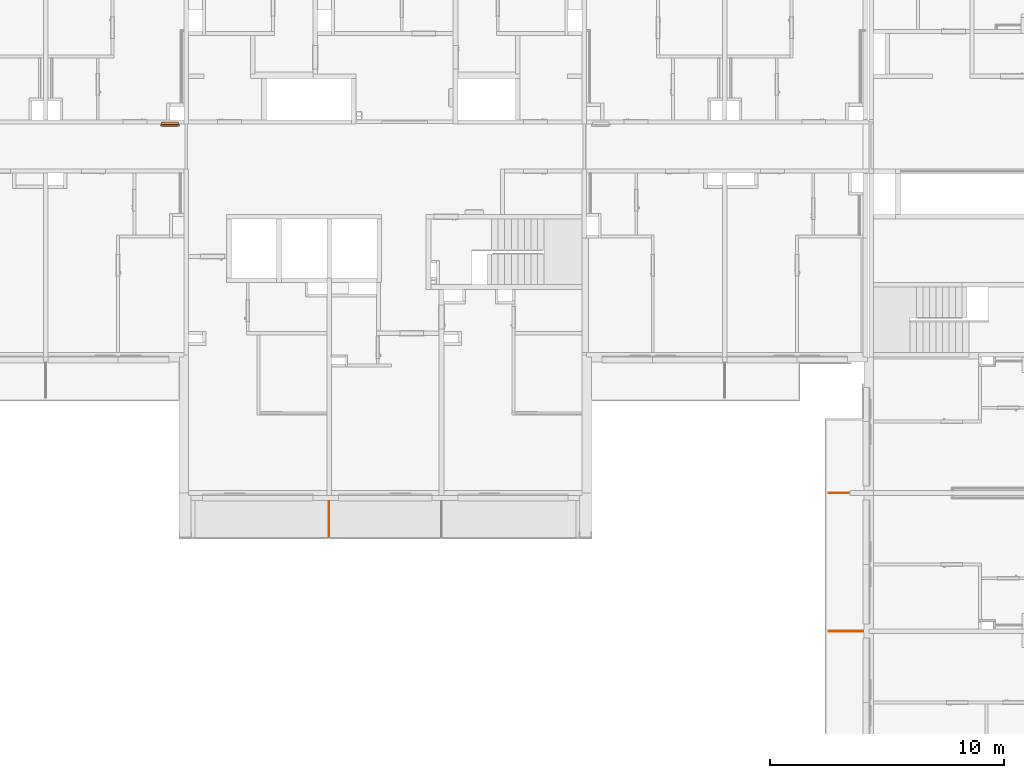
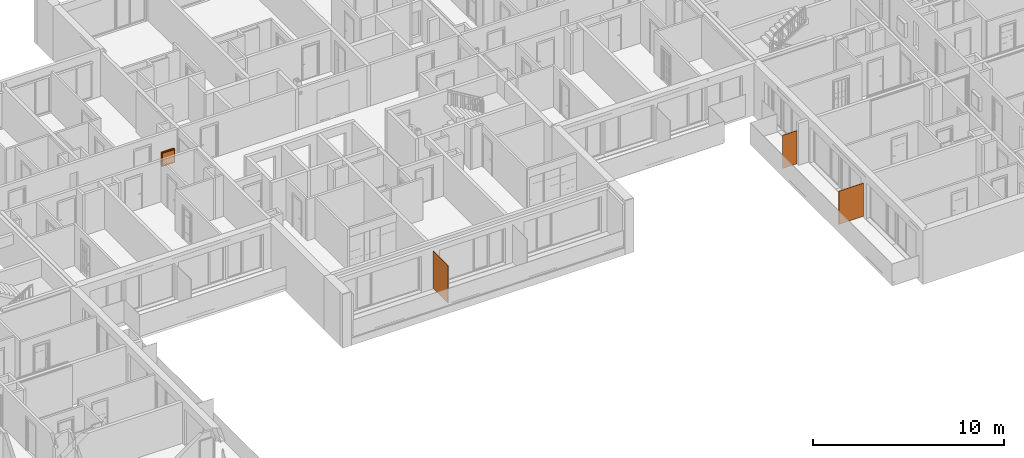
# One storey, part 26 of 67: 4 proxies.
"""IFC2X3 building model written with IfcOpenShell, lengths in millimetres."""

from ifc_helpers import new_model, entity, si_unit, converted_unit, derived_unit, money_unit, direction, frame, origin_with_axes, place, context, subcontext, project, spatial, polyline, outline, extrude, faceted_brep, source, transform, mapped, material, type_object, element, save


model = new_model("IFC2X3")

# Units and contexts
model_context = context("Model", 3, precision=0.01, world=origin_with_axes(), true_north=direction((0.34421633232, 0.938890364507)))
body_context = subcontext(model_context, "Body", "Model", "MODEL_VIEW")
ifc_project = project(units=[si_unit("LENGTHUNIT", "METRE", prefix="MILLI"), si_unit("AREAUNIT", "SQUARE_METRE"), si_unit("VOLUMEUNIT", "CUBIC_METRE"), converted_unit("PLANEANGLEUNIT", "DEGREE", entity("IfcPlaneAngleMeasure", 0.0174532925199), si_unit("PLANEANGLEUNIT", "RADIAN"), dimensions=[0, 0, 0, 0, 0, 0, 0]), si_unit("SOLIDANGLEUNIT", "STERADIAN"), money_unit("USD"), converted_unit("TIMEUNIT", "Year", entity("IfcTimeMeasure", 31556926.0), si_unit("TIMEUNIT", "SECOND"), dimensions=[0, 0, 1, 0, 0, 0, 0]), si_unit("MASSUNIT", "GRAM", prefix="KILO"), si_unit("THERMODYNAMICTEMPERATUREUNIT", "DEGREE_CELSIUS"), si_unit("LUMINOUSINTENSITYUNIT", "LUMEN"), si_unit("ENERGYUNIT", "JOULE", prefix="MEGA"), derived_unit("THERMALCONDUCTANCEUNIT", [(si_unit("POWERUNIT", "WATT"), 1), (si_unit("LENGTHUNIT", "METRE"), -1), (si_unit("THERMODYNAMICTEMPERATUREUNIT", "KELVIN"), -1)]), derived_unit("SPECIFICHEATCAPACITYUNIT", [(si_unit("ENERGYUNIT", "JOULE"), 1), (si_unit("MASSUNIT", "GRAM", prefix="KILO"), -1), (si_unit("THERMODYNAMICTEMPERATUREUNIT", "KELVIN"), -1)]), derived_unit("MASSDENSITYUNIT", [(si_unit("MASSUNIT", "GRAM", prefix="KILO"), 1), (si_unit("VOLUMEUNIT", "CUBIC_METRE"), -1)])], contexts=[model_context])

# Site, building, storey
site_placement = place(None, origin_with_axes())
site = spatial("IfcSite", under=ifc_project, at=site_placement, Name="USTRONIE MORSKIE", CompositionType="ELEMENT")
building_placement = place(site_placement, origin_with_axes())
building = spatial("IfcBuilding", under=site, at=building_placement, Name="Budynek", CompositionType="ELEMENT")
storey_placement = place(building_placement, frame((0.0, 0.0, 4000.0), z_axis=(0.0, 0.0, 1.0), x_axis=(1.0, 0.0, 0.0)))
storey = spatial("IfcBuildingStorey", under=building, at=storey_placement, Name="PIĘTRO 1", CompositionType="ELEMENT", Elevation=4000.0)

# Proxies
ifc_material = material(Name="Woda")
building_element_proxy_type_1 = type_object("IfcBuildingElementProxyType", Name="Woda 30", PredefinedType="NOTDEFINED")
proxy_1_placement = place(storey_placement, frame((408237.884527, 715101.199004, 20.0), z_axis=(0.0, 0.0, 1.0), x_axis=(-0.99999999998, -6.33272500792e-06, 0.0)))
element("IfcBuildingElementProxy", 1, at=proxy_1_placement, inside=storey, type_object=building_element_proxy_type_1, material=ifc_material, Name="Œciana-007", context=body_context, shape_type="SweptSolid", body=[
    extrude(outline(polyline([(0.0, -14.9999999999), (1490.00000003, -14.9999999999), (1490.00000003, 15.0000000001), (0.0, 15.0000000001), (0.0, -14.9999999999)])), origin_with_axes(), (0.0, 0.0, 1.0), 2120.0),
])
proxy_2_placement = place(storey_placement, frame((407617.884527, 721001.199036, 20.0), z_axis=(0.0, 0.0, 1.0), x_axis=(-0.99999999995, -1.0002154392e-05, 0.0)))
element("IfcBuildingElementProxy", 2, at=proxy_2_placement, inside=storey, type_object=building_element_proxy_type_1, material=ifc_material, Name="Œciana-007", context=body_context, shape_type="SweptSolid", body=[
    extrude(outline(polyline([(0.0, -15.0), (870.000000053, -15.0), (870.000000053, 15.0), (0.0, 15.0), (0.0, -15.0)])), origin_with_axes(), (0.0, 0.0, 1.0), 2120.0),
])
proxy_3_placement = place(storey_placement, frame((385417.920919, 720651.199036, 20.0), z_axis=(0.0, 0.0, 1.0), x_axis=(0.0, -1.0, 0.0)))
element("IfcBuildingElementProxy", 3, at=proxy_3_placement, inside=storey, type_object=building_element_proxy_type_1, material=ifc_material, Name="Œciana-007", context=body_context, shape_type="SweptSolid", body=[
    extrude(outline(polyline([(0.0, -15.0), (1550.0, -15.0), (1550.0, 15.0), (0.0, 15.0), (0.0, -15.0)])), origin_with_axes(), (0.0, 0.0, 1.0), 2400.0),
])
building_element_proxy_type_2 = type_object("IfcBuildingElementProxyType", Name="Skrzynka P-Poż 23", PredefinedType="NOTDEFINED")
shared_shape = source(origin_with_axes(), body_context, "Body", "Brep", [
    faceted_brep([(0.0, 100.0, 0.0), (0.0, 20.0, 0.0), (-800.0, 20.0, 0.0), (-800.0, 100.0, 0.0), (0.0, 100.0, 900.0), (0.0, 20.0, 900.0), (-800.0, 20.0, 900.0), (-60.0, 20.0, 60.0), (-740.0, 20.0, 60.0), (-740.0, 20.0, 840.0), (-60.0, 20.0, 840.0), (-800.0, 100.0, 900.0), (-60.0, 100.0, 60.0), (-60.0, 100.0, 840.0), (-740.0, 100.0, 840.0), (-740.0, 100.0, 60.0)], [[[0, 1, 2, 3]], [[4, 5, 1, 0]], [[1, 5, 6, 2], [7, 8, 9, 10]], [[3, 2, 6, 11]], [[0, 3, 11, 4], [12, 13, 14, 15]], [[11, 6, 5, 4]], [[15, 8, 7, 12]], [[14, 9, 8, 15]], [[13, 10, 9, 14]], [[12, 7, 10, 13]]]),
    faceted_brep([(-40.0, 20.0, 40.0), (-40.0, 0.0, 40.0), (-760.0, 0.0, 40.0), (-760.0, 20.0, 40.0), (-40.0, 20.0, 860.0), (-40.0, 0.0, 860.0), (-760.0, 0.0, 860.0), (-80.0, 0.0, 80.0), (-720.0, 0.0, 80.0), (-720.0, 0.0, 820.0), (-80.0, 0.0, 820.0), (-760.0, 20.0, 860.0), (-80.0, 20.0, 80.0), (-80.0, 20.0, 820.0), (-720.0, 20.0, 820.0), (-720.0, 20.0, 80.0)], [[[0, 1, 2, 3]], [[4, 5, 1, 0]], [[1, 5, 6, 2], [7, 8, 9, 10]], [[3, 2, 6, 11]], [[0, 3, 11, 4], [12, 13, 14, 15]], [[11, 6, 5, 4]], [[15, 8, 7, 12]], [[14, 9, 8, 15]], [[13, 10, 9, 14]], [[12, 7, 10, 13]]]),
    faceted_brep([(-40.0, 180.0, 40.0), (-40.0, 100.0, 40.0), (-760.0, 100.0, 40.0), (-760.0, 180.0, 40.0), (-40.0, 180.0, 860.0), (-40.0, 100.0, 860.0), (-760.0, 100.0, 860.0), (-60.0, 100.0, 60.0), (-740.0, 100.0, 60.0), (-740.0, 100.0, 840.0), (-60.0, 100.0, 840.0), (-760.0, 180.0, 860.0), (-60.0, 180.0, 60.0), (-60.0, 180.0, 840.0), (-740.0, 180.0, 840.0), (-740.0, 180.0, 60.0)], [[[0, 1, 2, 3]], [[4, 5, 1, 0]], [[1, 5, 6, 2], [7, 8, 9, 10]], [[3, 2, 6, 11]], [[0, 3, 11, 4], [12, 13, 14, 15]], [[11, 6, 5, 4]], [[15, 8, 7, 12]], [[14, 9, 8, 15]], [[13, 10, 9, 14]], [[12, 7, 10, 13]]]),
    faceted_brep([(-40.0, 200.0, 40.0), (-40.0, 180.0, 40.0), (-760.0, 180.0, 40.0), (-760.0, 200.0, 40.0), (-40.0, 200.0, 860.0), (-40.0, 180.0, 860.0), (-760.0, 180.0, 860.0), (-760.0, 200.0, 860.0)], [[[0, 1, 2, 3]], [[4, 5, 1, 0]], [[1, 5, 6, 2]], [[3, 2, 6, 7]], [[0, 3, 7, 4]], [[7, 6, 5, 4]]]),
    faceted_brep([(-80.0, 15.0, 80.0), (-80.0, 5.0, 80.0), (-720.0, 5.0, 80.0), (-720.0, 15.0, 80.0), (-80.0, 15.0, 820.0), (-80.0, 5.0, 820.0), (-720.0, 5.0, 820.0), (-720.0, 15.0, 820.0)], [[[0, 1, 2, 3]], [[4, 5, 1, 0]], [[1, 5, 6, 2]], [[3, 2, 6, 7]], [[0, 3, 7, 4]], [[7, 6, 5, 4]]]),
    faceted_brep([(-749.659258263, 0.0, 447.411809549), (-750.0, 0.0, 450.0), (-749.659258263, 0.0, 452.588190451), (-748.660254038, 0.0, 455.0), (-747.071067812, 0.0, 457.071067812), (-745.0, 0.0, 458.660254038), (-742.588190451, 0.0, 459.659258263), (-740.0, 0.0, 460.0), (-737.411809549, 0.0, 459.659258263), (-735.0, 0.0, 458.660254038), (-732.928932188, 0.0, 457.071067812), (-731.339745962, 0.0, 455.0), (-730.340741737, 0.0, 452.588190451), (-730.0, 0.0, 450.0), (-730.340741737, 0.0, 447.411809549), (-731.339745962, 0.0, 445.0), (-732.928932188, 0.0, 442.928932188), (-735.0, 0.0, 441.339745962), (-737.411809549, 0.0, 440.340741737), (-740.0, 0.0, 440.0), (-742.588190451, 0.0, 440.340741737), (-745.0, 0.0, 441.339745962), (-747.071067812, 0.0, 442.928932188), (-748.660254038, 0.0, 445.0), (-749.659258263, -2.0, 447.411809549), (-750.0, -2.0, 450.0), (-749.659258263, -2.0, 452.588190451), (-748.660254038, -2.0, 455.0), (-747.071067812, -2.0, 457.071067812), (-745.0, -2.0, 458.660254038), (-742.588190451, -2.0, 459.659258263), (-740.0, -2.0, 460.0), (-737.411809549, -2.0, 459.659258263), (-735.0, -2.0, 458.660254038), (-732.928932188, -2.0, 457.071067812), (-731.339745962, -2.0, 455.0), (-730.340741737, -2.0, 452.588190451), (-730.0, -2.0, 450.0), (-730.340741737, -2.0, 447.411809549), (-731.339745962, -2.0, 445.0), (-732.928932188, -2.0, 442.928932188), (-735.0, -2.0, 441.339745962), (-737.411809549, -2.0, 440.340741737), (-740.0, -2.0, 440.0), (-742.588190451, -2.0, 440.340741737), (-745.0, -2.0, 441.339745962), (-747.071067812, -2.0, 442.928932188), (-748.660254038, -2.0, 445.0)], [[[0, 1, 2, 3, 4, 5, 6, 7, 8, 9, 10, 11, 12, 13, 14, 15, 16, 17, 18, 19, 20, 21, 22, 23]], [[0, 24, 25, 1]], [[1, 25, 26, 2]], [[2, 26, 27, 3]], [[3, 27, 28, 4]], [[4, 28, 29, 5]], [[5, 29, 30, 6]], [[6, 30, 31, 7]], [[7, 31, 32, 8]], [[8, 32, 33, 9]], [[9, 33, 34, 10]], [[10, 34, 35, 11]], [[11, 35, 36, 12]], [[12, 36, 37, 13]], [[13, 37, 38, 14]], [[14, 38, 39, 15]], [[15, 39, 40, 16]], [[16, 40, 41, 17]], [[17, 41, 42, 18]], [[18, 42, 43, 19]], [[19, 43, 44, 20]], [[20, 44, 45, 21]], [[21, 45, 46, 22]], [[22, 46, 47, 23]], [[23, 47, 24, 0]], [[24, 47, 46, 45, 44, 43, 42, 41, 40, 39, 38, 37, 36, 35, 34, 33, 32, 31, 30, 29, 28, 27, 26, 25]]]),
    faceted_brep([(-39.8977774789, 16.2235428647, 80.0), (-40.0, 17.0, 80.0), (-39.8977774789, 17.7764571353, 80.0), (-39.5980762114, 18.5, 80.0), (-39.1213203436, 19.1213203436, 80.0), (-38.5, 19.5980762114, 80.0), (-37.7764571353, 19.8977774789, 80.0), (-37.0, 20.0, 80.0), (-36.2235428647, 19.8977774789, 80.0), (-35.5, 19.5980762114, 80.0), (-34.8786796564, 19.1213203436, 80.0), (-34.4019237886, 18.5, 80.0), (-34.1022225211, 17.7764571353, 80.0), (-34.0, 17.0, 80.0), (-34.1022225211, 16.2235428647, 80.0), (-34.4019237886, 15.5, 80.0), (-34.8786796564, 14.8786796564, 80.0), (-35.5, 14.4019237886, 80.0), (-36.2235428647, 14.1022225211, 80.0), (-37.0, 14.0, 80.0), (-37.7764571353, 14.1022225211, 80.0), (-38.5, 14.4019237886, 80.0), (-39.1213203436, 14.8786796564, 80.0), (-39.5980762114, 15.5, 80.0), (-39.8977774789, 16.2235428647, 120.0), (-40.0, 17.0, 120.0), (-39.8977774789, 17.7764571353, 120.0), (-39.5980762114, 18.5, 120.0), (-39.1213203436, 19.1213203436, 120.0), (-38.5, 19.5980762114, 120.0), (-37.7764571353, 19.8977774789, 120.0), (-37.0, 20.0, 120.0), (-36.2235428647, 19.8977774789, 120.0), (-35.5, 19.5980762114, 120.0), (-34.8786796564, 19.1213203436, 120.0), (-34.4019237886, 18.5, 120.0), (-34.1022225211, 17.7764571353, 120.0), (-34.0, 17.0, 120.0), (-34.1022225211, 16.2235428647, 120.0), (-34.4019237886, 15.5, 120.0), (-34.8786796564, 14.8786796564, 120.0), (-35.5, 14.4019237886, 120.0), (-36.2235428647, 14.1022225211, 120.0), (-37.0, 14.0, 120.0), (-37.7764571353, 14.1022225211, 120.0), (-38.5, 14.4019237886, 120.0), (-39.1213203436, 14.8786796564, 120.0), (-39.5980762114, 15.5, 120.0)], [[[0, 1, 2, 3, 4, 5, 6, 7, 8, 9, 10, 11, 12, 13, 14, 15, 16, 17, 18, 19, 20, 21, 22, 23]], [[0, 24, 25, 1]], [[1, 25, 26, 2]], [[2, 26, 27, 3]], [[3, 27, 28, 4]], [[4, 28, 29, 5]], [[5, 29, 30, 6]], [[6, 30, 31, 7]], [[7, 31, 32, 8]], [[8, 32, 33, 9]], [[9, 33, 34, 10]], [[10, 34, 35, 11]], [[11, 35, 36, 12]], [[12, 36, 37, 13]], [[13, 37, 38, 14]], [[14, 38, 39, 15]], [[15, 39, 40, 16]], [[16, 40, 41, 17]], [[17, 41, 42, 18]], [[18, 42, 43, 19]], [[19, 43, 44, 20]], [[20, 44, 45, 21]], [[21, 45, 46, 22]], [[22, 46, 47, 23]], [[23, 47, 24, 0]], [[24, 47, 46, 45, 44, 43, 42, 41, 40, 39, 38, 37, 36, 35, 34, 33, 32, 31, 30, 29, 28, 27, 26, 25]]]),
    faceted_brep([(-39.8977774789, 16.2235428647, 780.0), (-40.0, 17.0, 780.0), (-39.8977774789, 17.7764571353, 780.0), (-39.5980762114, 18.5, 780.0), (-39.1213203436, 19.1213203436, 780.0), (-38.5, 19.5980762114, 780.0), (-37.7764571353, 19.8977774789, 780.0), (-37.0, 20.0, 780.0), (-36.2235428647, 19.8977774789, 780.0), (-35.5, 19.5980762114, 780.0), (-34.8786796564, 19.1213203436, 780.0), (-34.4019237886, 18.5, 780.0), (-34.1022225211, 17.7764571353, 780.0), (-34.0, 17.0, 780.0), (-34.1022225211, 16.2235428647, 780.0), (-34.4019237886, 15.5, 780.0), (-34.8786796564, 14.8786796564, 780.0), (-35.5, 14.4019237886, 780.0), (-36.2235428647, 14.1022225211, 780.0), (-37.0, 14.0, 780.0), (-37.7764571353, 14.1022225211, 780.0), (-38.5, 14.4019237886, 780.0), (-39.1213203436, 14.8786796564, 780.0), (-39.5980762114, 15.5, 780.0), (-39.8977774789, 16.2235428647, 820.0), (-40.0, 17.0, 820.0), (-39.8977774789, 17.7764571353, 820.0), (-39.5980762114, 18.5, 820.0), (-39.1213203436, 19.1213203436, 820.0), (-38.5, 19.5980762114, 820.0), (-37.7764571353, 19.8977774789, 820.0), (-37.0, 20.0, 820.0), (-36.2235428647, 19.8977774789, 820.0), (-35.5, 19.5980762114, 820.0), (-34.8786796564, 19.1213203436, 820.0), (-34.4019237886, 18.5, 820.0), (-34.1022225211, 17.7764571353, 820.0), (-34.0, 17.0, 820.0), (-34.1022225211, 16.2235428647, 820.0), (-34.4019237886, 15.5, 820.0), (-34.8786796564, 14.8786796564, 820.0), (-35.5, 14.4019237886, 820.0), (-36.2235428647, 14.1022225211, 820.0), (-37.0, 14.0, 820.0), (-37.7764571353, 14.1022225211, 820.0), (-38.5, 14.4019237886, 820.0), (-39.1213203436, 14.8786796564, 820.0), (-39.5980762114, 15.5, 820.0)], [[[0, 1, 2, 3, 4, 5, 6, 7, 8, 9, 10, 11, 12, 13, 14, 15, 16, 17, 18, 19, 20, 21, 22, 23]], [[0, 24, 25, 1]], [[1, 25, 26, 2]], [[2, 26, 27, 3]], [[3, 27, 28, 4]], [[4, 28, 29, 5]], [[5, 29, 30, 6]], [[6, 30, 31, 7]], [[7, 31, 32, 8]], [[8, 32, 33, 9]], [[9, 33, 34, 10]], [[10, 34, 35, 11]], [[11, 35, 36, 12]], [[12, 36, 37, 13]], [[13, 37, 38, 14]], [[14, 38, 39, 15]], [[15, 39, 40, 16]], [[16, 40, 41, 17]], [[17, 41, 42, 18]], [[18, 42, 43, 19]], [[19, 43, 44, 20]], [[20, 44, 45, 21]], [[21, 45, 46, 22]], [[22, 46, 47, 23]], [[23, 47, 24, 0]], [[24, 47, 46, 45, 44, 43, 42, 41, 40, 39, 38, 37, 36, 35, 34, 33, 32, 31, 30, 29, 28, 27, 26, 25]]]),
])
proxy_4_placement = place(storey_placement, frame((379017.937739, 736651.199036, 600.0), z_axis=(0.0, 0.0, 1.0), x_axis=(1.0, 0.0, 0.0)))
element("IfcBuildingElementProxy", 4, at=proxy_4_placement, inside=storey, type_object=building_element_proxy_type_2, Name="OB3", context=body_context, shape_type="MappedRepresentation", body=[
    mapped(shared_shape, transform((0.0, 0.0, 0.0))),
])

save(model, "model.ifc")
